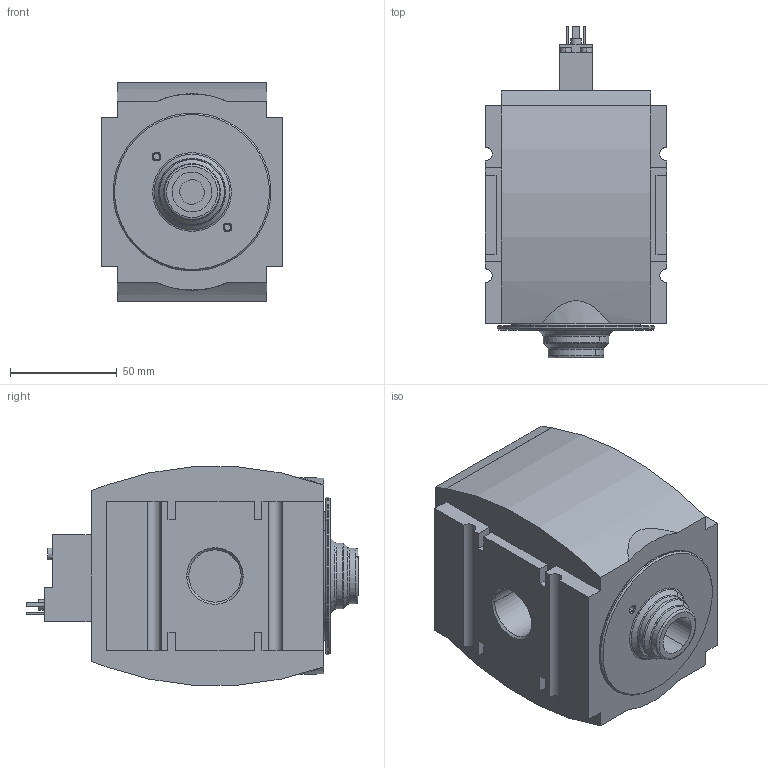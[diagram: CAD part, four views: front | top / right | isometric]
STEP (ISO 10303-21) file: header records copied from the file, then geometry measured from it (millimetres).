
FILE_DESCRIPTION((''),'2;1');
FILE_NAME('R412009266_ASM','2015-05-12T',('pma1hc'),(''),'PRO/ENGINEER BY PARAMETRIC TECHNOLOGY CORPORATION, 2011490','PRO/ENGINEER BY PARAMETRIC TECHNOLOGY CORPORATION, 2011490','');
FILE_SCHEMA(('AUTOMOTIVE_DESIGN_CC2 { 1 2 10303 214 -1 1 5 2 }'));
Length unit declared in the file: millimetre
Products named in the file (2): R412009266; R412009266_ASM
Assembly tree (1 placements, depth 2):
  R412009266_ASM
    R412009266
Bounding box: 85 x 155.5 x 102.28 mm (x, y, z)
Volume: 843269.3 mm3; surface area: 68161.1 mm2
Topology: 1 solids, 1 shells, 146 faces, 386 edges, 256 vertices
Faces by surface type: plane 86, cylinder 32, cone 14, torus 14
Entity records: 7039 total; most frequent: CARTESIAN_POINT 891, DIRECTION 810, ORIENTED_EDGE 772, PRESENTATION_STYLE_ASSIGNMENT 486, STYLED_ITEM 387, CURVE_STYLE 386, EDGE_CURVE 386, AXIS2_PLACEMENT_3D 279
